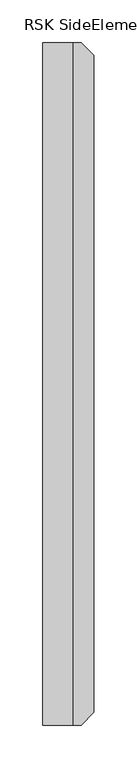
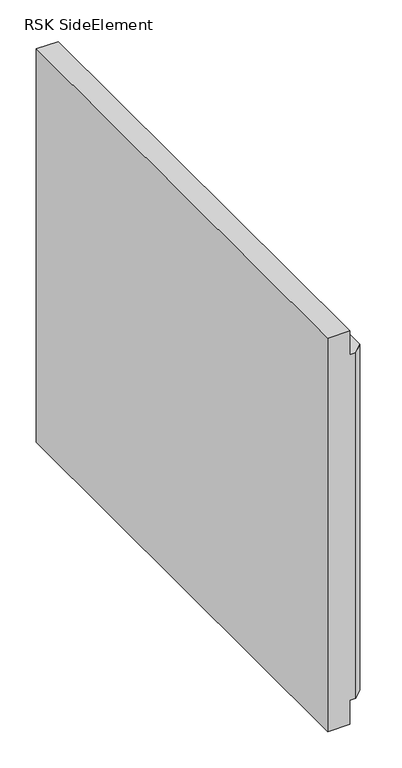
"""IFC4 building model written with IfcOpenShell, lengths in millimetres: proxy geometry, RAUSIKKO SX+HX SideElement : RSK SideElement."""

import ifcopenshell
import ifcopenshell.guid

model = None  # the IFC model being written
_history = None  # IfcOwnerHistory: only IFC2X3 demands one
_inside = {}  # id of a spatial element -> (the spatial element, [elements in it])
_under = {}  # id of a project, library or spatial element -> (it, [spatial elements below it])
_declared = {}  # id of a project -> (the project, [libraries it declares])
_typed = {}  # id of a type object -> (the type object, [elements of that type])
_made_of = {}  # id of a material, layer set ... -> (it, [elements and type objects made of it])


def new_model(schema):
    """Start an empty IFC model of exactly this schema.

    Asked for "IFC4X3", IfcOpenShell would pick the latest addendum, in which some entities
    have other attributes; the version numbers below select the first issue.
    IFC2X3 requires an IfcOwnerHistory on every rooted entity: one is made here for all.
    """
    global model, _history
    if schema == "IFC4X3":
        model = ifcopenshell.file(schema_version=(4, 3, 0, 0))
    else:
        model = ifcopenshell.file(schema=schema)
    _inside.clear()
    _under.clear()
    _declared.clear()
    _typed.clear()
    _made_of.clear()
    _history = None
    if model.schema == "IFC2X3":
        org = make("IfcOrganization", Name="unknown")
        user = make(
            "IfcPersonAndOrganization",
            ThePerson=make("IfcPerson", FamilyName="unknown"),
            TheOrganization=org,
        )
        app = make(
            "IfcApplication",
            ApplicationDeveloper=org,
            Version="unknown",
            ApplicationFullName="unknown",
            ApplicationIdentifier="unknown",
        )
        _history = make(
            "IfcOwnerHistory",
            OwningUser=user,
            OwningApplication=app,
            ChangeAction="ADDED",
            CreationDate=0,
        )
    return model


def make(cls, **values):
    """One entity of the class cls with the attributes given. An attribute that is None is left unset."""
    return model.create_entity(
        cls, **{name: value for name, value in values.items() if value is not None}
    )


def rooted(cls, **values):
    """An entity with a GlobalId (a new one), such as an element, a storey or a relation."""
    return make(cls, GlobalId=ifcopenshell.guid.new(), OwnerHistory=_history, **values)


def si_unit(unit_type, name, prefix=None):
    """IfcSIUnit, for example si_unit("LENGTHUNIT", "METRE", prefix="MILLI")."""
    return make("IfcSIUnit", UnitType=unit_type, Prefix=prefix, Name=name)


def assignment(units):
    """IfcUnitAssignment: the units of a project."""
    return None if units is None else make("IfcUnitAssignment", Units=units)


def point(xyz):
    """IfcCartesianPoint."""
    return None if xyz is None else make("IfcCartesianPoint", Coordinates=xyz)


def direction(xyz):
    """IfcDirection."""
    return None if xyz is None else make("IfcDirection", DirectionRatios=xyz)


def frame(location, z_axis=None, x_axis=None):
    """IfcAxis2Placement3D, a coordinate frame: its origin and axes. An axis left out is left unset."""
    return make(
        "IfcAxis2Placement3D",
        Location=point(location),
        Axis=direction(z_axis),
        RefDirection=direction(x_axis),
    )


def origin():
    """The frame at (0, 0, 0) with its axes left unset."""
    return frame((0.0, 0.0, 0.0))


def place(relative_to, where):
    """IfcLocalPlacement: puts the frame where relative to a parent placement (None: the world)."""
    return make(
        "IfcLocalPlacement", PlacementRelTo=relative_to, RelativePlacement=where
    )


def context(
    kind, dimensions, precision=None, world=None, true_north=None, identifier=None
):
    """IfcGeometricRepresentationContext, for example the 3D "Model" context."""
    return make(
        "IfcGeometricRepresentationContext",
        ContextIdentifier=identifier,
        ContextType=kind,
        CoordinateSpaceDimension=dimensions,
        Precision=precision,
        WorldCoordinateSystem=world,
        TrueNorth=true_north,
    )


def project(units=None, contexts=None):
    """IfcProject with its units and contexts."""
    return rooted(
        "IfcProject",
        Name="project",
        RepresentationContexts=contexts,
        UnitsInContext=assignment(units),
    )


def spatial(cls, under=None, at=None, **own):
    """A site, building, storey or space (cls), placed at a placement, below another one or the project."""
    s = rooted(cls, ObjectPlacement=at, **own)
    if under is not None:
        _under.setdefault(under.id(), (under, []))[1].append(s)
    return s


def faces_of(points, faces, orient=None, outer=None):
    """IfcFace entities. A face is a list of loops; a loop is a list of indices into points, from 0.

    orient and outer hold one flag for each loop. By default every Orientation is true, the
    first loop of a face is its IfcFaceOuterBound and the others are IfcFaceBound.
    """
    made = []
    for i, loops in enumerate(faces):
        bounds = []
        for j, loop in enumerate(loops):
            is_outer = j == 0 if outer is None else outer[i][j]
            bounds.append(
                make(
                    "IfcFaceOuterBound" if is_outer else "IfcFaceBound",
                    Bound=make("IfcPolyLoop", Polygon=[points[k] for k in loop]),
                    Orientation=True if orient is None else orient[i][j],
                )
            )
        made.append(make("IfcFace", Bounds=bounds))
    return made


def faceted_brep(points, faces, orient=None, outer=None, voids=None):
    """IfcFacetedBrep: a solid bounded by flat faces; with voids (closed shells), ...WithVoids."""
    shared = [point(p) for p in points]
    hull = make("IfcClosedShell", CfsFaces=faces_of(shared, faces, orient, outer))
    if voids is None:
        return make("IfcFacetedBrep", Outer=hull)
    return make(
        "IfcFacetedBrepWithVoids",
        Outer=hull,
        Voids=[
            make(cls, CfsFaces=faces_of(shared, fs, o, b)) for cls, fs, o, b in voids
        ],
    )


def shape(context_of_items, identifier, shape_type, items):
    """IfcShapeRepresentation: the items that make up one representation, for example the "Body"."""
    return make(
        "IfcShapeRepresentation",
        ContextOfItems=context_of_items,
        RepresentationIdentifier=identifier,
        RepresentationType=shape_type,
        Items=items,
    )


def source(mapping_origin, context_of_items, identifier, shape_type, items):
    """IfcRepresentationMap: a shape defined once, which mapped items show again and again."""
    return make(
        "IfcRepresentationMap",
        MappingOrigin=mapping_origin,
        MappedRepresentation=shape(context_of_items, identifier, shape_type, items),
    )


def transform(
    local_origin,
    x_axis=None,
    y_axis=None,
    z_axis=None,
    scale=None,
    scale2=None,
    scale3=None,
    uniform=True,
):
    """IfcCartesianTransformationOperator3D, or its non-uniform kind. x_axis, y_axis, z_axis: its Axis1, 2, 3."""
    if uniform:
        return make(
            "IfcCartesianTransformationOperator3D",
            Axis1=direction(x_axis),
            Axis2=direction(y_axis),
            LocalOrigin=point(local_origin),
            Scale=scale,
            Axis3=direction(z_axis),
        )
    return make(
        "IfcCartesianTransformationOperator3DnonUniform",
        Axis1=direction(x_axis),
        Axis2=direction(y_axis),
        LocalOrigin=point(local_origin),
        Scale=scale,
        Axis3=direction(z_axis),
        Scale2=scale2,
        Scale3=scale3,
    )


def mapped(mapping_source, mapping_target):
    """IfcMappedItem: shows the shape of a source again, moved by a transform."""
    return make(
        "IfcMappedItem", MappingSource=mapping_source, MappingTarget=mapping_target
    )


def made_of(thing, what):
    """Note that an element or type object is made of a material, layer set ...; save() writes the relation."""
    if what is not None:
        _made_of.setdefault(what.id(), (what, []))[1].append(thing)
    return thing


def element(
    cls,
    number,
    at=None,
    inside=None,
    cuts=None,
    type_object=None,
    material=None,
    context=None,
    identifier="Body",
    shape_type=None,
    held_by="IfcProductDefinitionShape",
    body=None,
    shapes=None,
    **own,
):
    """One element of the class cls, such as IfcWall. Its Tag is "e" and its number.

    at: its placement. inside: the storey or other place that contains it. cuts: it is an
    opening in that element (IfcRelVoidsElement). A single representation is given by context,
    identifier, shape_type and body (its items); several are given by shapes. held_by: the class
    of the entity that holds the representations. save() writes the other relations.
    """
    e = rooted(cls, Tag="e%d" % number, ObjectPlacement=at, **own)
    if body is not None:
        shapes = [shape(context, identifier, shape_type, body)]
    if shapes is not None:
        e.Representation = make(held_by, Representations=shapes)
    if inside is not None:
        _inside.setdefault(inside.id(), (inside, []))[1].append(e)
    if cuts is not None:
        rooted(
            "IfcRelVoidsElement", RelatingBuildingElement=cuts, RelatedOpeningElement=e
        )
    if type_object is not None:
        _typed.setdefault(type_object.id(), (type_object, []))[1].append(e)
    return made_of(e, material)


def aggregate(whole, parts):
    """IfcRelAggregates: a whole, such as a stair, and the parts it consists of."""
    return rooted("IfcRelAggregates", RelatingObject=whole, RelatedObjects=parts)


def save(model, path):
    """Write the relations noted so far, then the file.

    IfcRelAggregates (storeys below a building ...), IfcRelContainedInSpatialStructure (elements
    in a storey), IfcRelDefinesByType, IfcRelAssociatesMaterial and IfcRelDeclares: one each for
    every whole, place, type object, material and project.
    """
    for whole, parts in _under.values():
        aggregate(whole, parts)
    for where, things in _inside.values():
        rooted(
            "IfcRelContainedInSpatialStructure",
            RelatedElements=things,
            RelatingStructure=where,
        )
    for kind, things in _typed.values():
        rooted("IfcRelDefinesByType", RelatedObjects=things, RelatingType=kind)
    for what, things in _made_of.values():
        rooted("IfcRelAssociatesMaterial", RelatedObjects=things, RelatingMaterial=what)
    for by, libraries in _declared.values():
        rooted("IfcRelDeclares", RelatingContext=by, RelatedDefinitions=libraries)
    model.write(path)


def rsk_sideelement_9117403f(model_context):
    return source(origin(), model_context, "Body", "Brep", [
        faceted_brep([(0.0, 0.0, 40.0), (0.0, 800.0, 40.0), (10.0, 800.0, 40.0), (25.0, 785.0, 40.0), (25.0, 15.0, 40.0), (10.0, 0.0, 40.0), (0.0, 0.0, 0.0), (0.0, 800.0, 0.0), (-35.0, 800.0, 660.0), (-35.0, 0.0, 660.0), (0.0, 0.0, 660.0), (0.0, 800.0, 660.0), (-35.0, 0.0, 0.0), (-35.0, 800.0, 0.0), (10.0, 0.0, 620.0), (0.0, 0.0, 620.0), (0.0, 800.0, 620.0), (10.0, 800.0, 620.0), (25.0, 785.0, 620.0), (25.0, 15.0, 620.0)], [[[0, 1, 2, 3, 4, 5]], [[1, 0, 6, 7]], [[8, 9, 10, 11]], [[12, 13, 7, 6]], [[9, 12, 6, 0, 5, 14, 15, 10]], [[9, 8, 13, 12]], [[13, 8, 11, 16, 17, 2, 1, 7]], [[3, 2, 17, 18]], [[4, 3, 18, 19]], [[5, 4, 19, 14]], [[16, 15, 14, 19, 18, 17]], [[15, 16, 11, 10]]]),
    ])


if __name__ == "__main__":
    model = new_model("IFC4")
    model_context = context("Model", 3, world=origin())
    ifc_project = project(units=[si_unit("LENGTHUNIT", "METRE", prefix="MILLI")], contexts=[model_context])
    site = spatial("IfcSite", under=ifc_project)
    building = spatial("IfcBuilding", under=site)
    placement = place(None, origin())
    rsk_sideelement_shape = rsk_sideelement_9117403f(model_context)
    element("IfcBuildingElementProxy", 1, Name="RAUSIKKO SX+HX SideElement : RSK SideElement", ObjectType="RAUSIKKO SX+HX SideElement : RSK SideElement", at=placement, inside=building, context=model_context, shape_type="MappedRepresentation", body=[
        mapped(rsk_sideelement_shape, transform((0.0, 0.0, 0.0), x_axis=(1.0, 0.0, 0.0), y_axis=(0.0, 1.0, 0.0), z_axis=(0.0, 0.0, 1.0))),
    ])
    save(model, "model.ifc")
